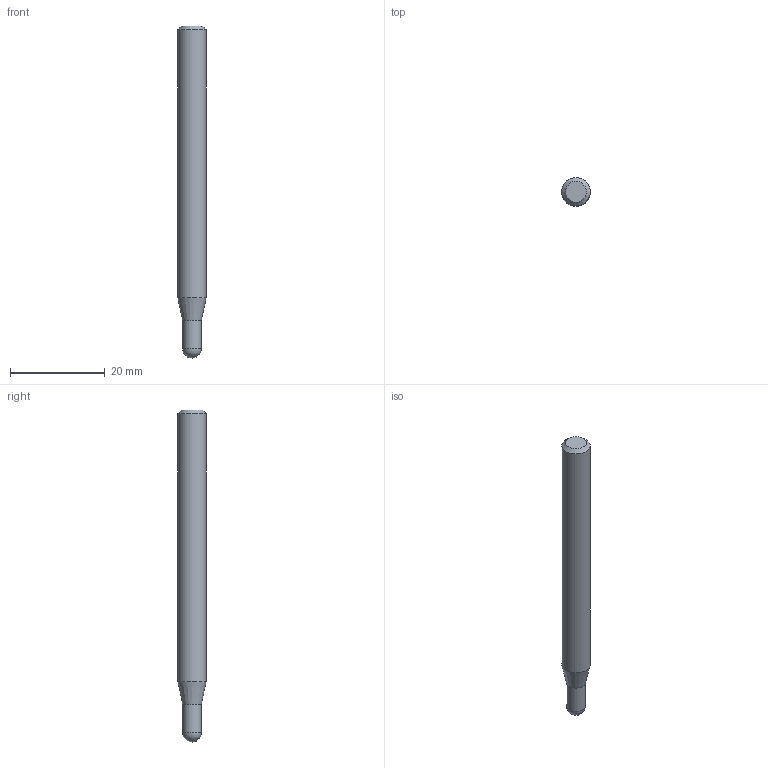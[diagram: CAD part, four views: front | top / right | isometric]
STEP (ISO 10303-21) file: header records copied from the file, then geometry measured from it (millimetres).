
FILE_DESCRIPTION((''),'2;1');
FILE_NAME('C:\Users\nsx150\AppData\Local\Temp\Mastercam 2021\EUJSUNXURU\TEMP.step','2021-04-22T10:26:31',(''),(''),'STEP Write','Mastercam 2021 ... CNC Software, Inc.','');
FILE_SCHEMA(('AUTOMOTIVE_DESIGN'));
Length unit declared in the file: millimetre
Products named in the file (1): None
Bounding box: 6 x 6 x 70 mm (x, y, z)
Volume: 1800.3 mm3; surface area: 1299.8 mm2
Topology: 2 solids, 2 shells, 8 faces, 12 edges, 7 vertices
Faces by surface type: plane 3, cylinder 2, cone 2, sphere 1
Full cylindrical faces by diameter (mm): 4 x1, 6 x1
Entity records: 190 total; most frequent: DIRECTION 32, CARTESIAN_POINT 22, AXIS2_PLACEMENT_3D 16, ORIENTED_EDGE 12, EDGE_LOOP 12, STYLED_ITEM 11, ADVANCED_FACE 8, VERTEX_POINT 6
